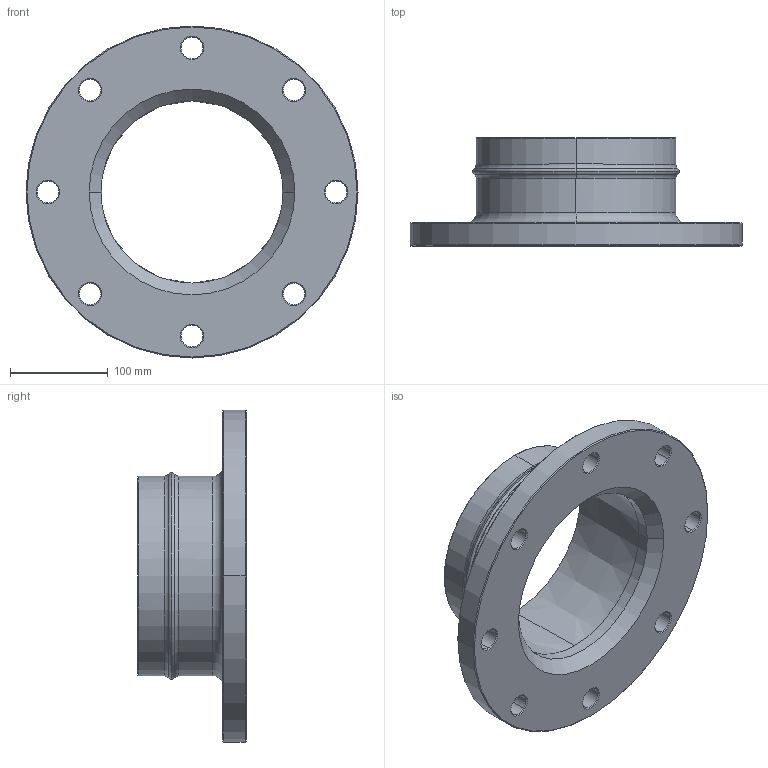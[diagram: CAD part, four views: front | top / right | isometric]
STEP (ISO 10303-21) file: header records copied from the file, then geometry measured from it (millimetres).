
FILE_DESCRIPTION((''),'2;1');
FILE_NAME('AU15A17000','2019-12-13T',('Administrator'),(''),'PRO/ENGINEER BY PARAMETRIC TECHNOLOGY CORPORATION, 2009360','PRO/ENGINEER BY PARAMETRIC TECHNOLOGY CORPORATION, 2009360','');
FILE_SCHEMA(('AUTOMOTIVE_DESIGN_CC2 { 1 2 10303 214 -1 1 5 2 }'));
Length unit declared in the file: millimetre
Products named in the file (1): AU15A17000
Bounding box: 340 x 110.79 x 340 mm (x, y, z)
Volume: 1867942.3 mm3; surface area: 272643.6 mm2
Topology: 1 solids, 1 shells, 85 faces, 196 edges, 114 vertices
Faces by surface type: cone 44, cylinder 24, torus 14, plane 3
Entity records: 3073 total; most frequent: DIRECTION 494, CARTESIAN_POINT 395, ORIENTED_EDGE 392, AXIS2_PLACEMENT_3D 213, PRESENTATION_STYLE_ASSIGNMENT 197, STYLED_ITEM 197, CURVE_STYLE 196, EDGE_CURVE 196
